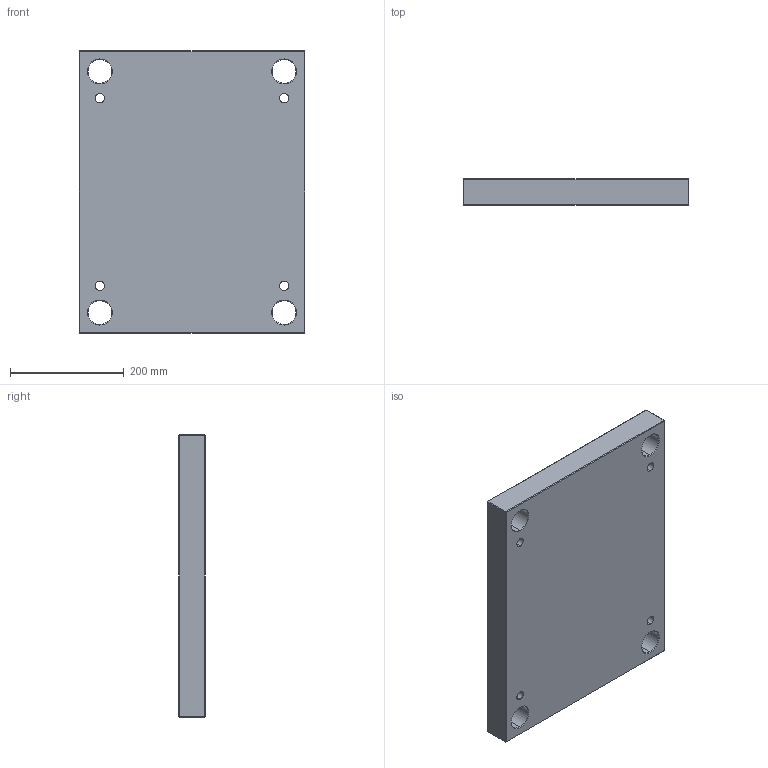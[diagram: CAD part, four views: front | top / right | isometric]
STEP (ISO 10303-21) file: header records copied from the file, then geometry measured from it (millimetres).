
FILE_DESCRIPTION (( 'STEP AP214' ), '1' );
FILE_NAME ('PS-EU-396x496x46.STEP', '2021-02-17T16:24:54', ( '' ), ( '' ), 'SwSTEP 2.0', 'SolidWorks 2018', '' );
FILE_SCHEMA (( 'AUTOMOTIVE_DESIGN' ));
Length unit declared in the file: millimetre
Products named in the file (1): PS-EU-396x496x46
Bounding box: 396 x 46 x 496 mm (x, y, z)
Volume: 8717061.9 mm3; surface area: 495184.2 mm2
Topology: 1 solids, 1 shells, 70 faces, 152 edges, 88 vertices
Faces by surface type: plane 30, cylinder 24, cone 16
Entity records: 1946 total; most frequent: DIRECTION 358, CARTESIAN_POINT 311, ORIENTED_EDGE 304, EDGE_CURVE 152, AXIS2_PLACEMENT_3D 135, EDGE_LOOP 90, VERTEX_POINT 88, VECTOR 88
